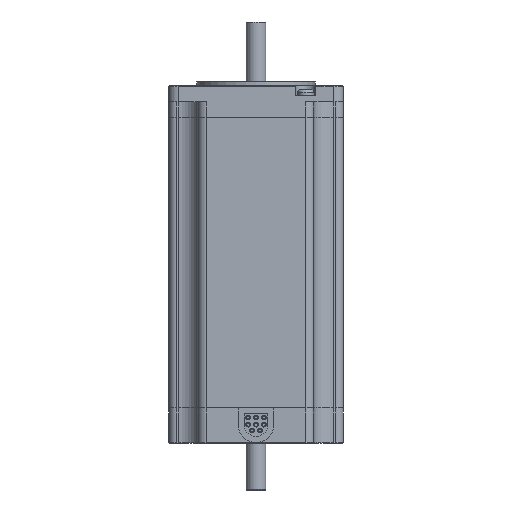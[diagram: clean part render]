
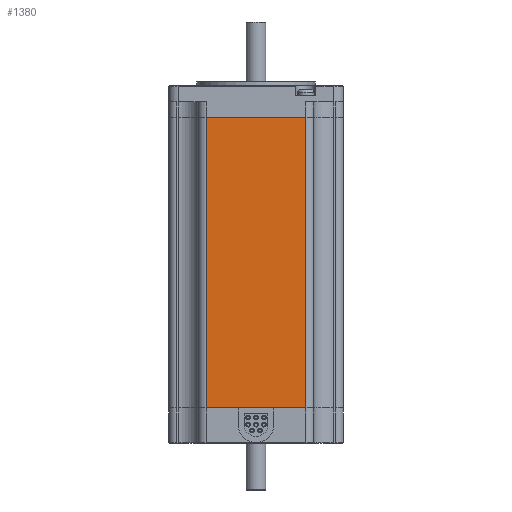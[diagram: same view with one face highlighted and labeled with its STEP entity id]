
A CAD part, front view. The second image highlights one B-rep face of the part: STEP entity #1380.
In plain terms, the highlighted planar face has unit normal (0, -1, 0).
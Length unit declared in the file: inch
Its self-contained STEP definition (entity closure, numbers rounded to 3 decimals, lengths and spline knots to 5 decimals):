
#1364 = EDGE_CURVE ( 'NONE', #1374, #1677, #12922, .T. ) ;
#1366 = ORIENTED_EDGE ( 'NONE', *, *, #1364, .T. ) ;
#1367 = ORIENTED_EDGE ( 'NONE', *, *, #1721, .T. ) ;
#1368 = ORIENTED_EDGE ( 'NONE', *, *, #1384, .F. ) ;
#1370 = ORIENTED_EDGE ( 'NONE', *, *, #1372, .F. ) ;
#1371 = VERTEX_POINT ( 'NONE', #12924 ) ;
#1372 = EDGE_CURVE ( 'NONE', #1374, #1371, #12896, .T. ) ;
#1374 = VERTEX_POINT ( 'NONE', #12955 ) ;
#1380 = ADVANCED_FACE ( 'NONE', ( #12957 ), #12947, .F. ) ;
#1382 = EDGE_LOOP ( 'NONE', ( #1367, #1368, #1370, #1366 ) ) ;
#1384 = EDGE_CURVE ( 'NONE', #1371, #1604, #13002, .T. ) ;
#1604 = VERTEX_POINT ( 'NONE', #13716 ) ;
#1677 = VERTEX_POINT ( 'NONE', #13872 ) ;
#1721 = EDGE_CURVE ( 'NONE', #1677, #1604, #13958, .T. ) ;
#12896 = LINE ( 'NONE', #12953, #12952 ) ;
#12919 = DIRECTION ( 'NONE',  ( 0., 0., 1. ) ) ;
#12920 = VECTOR ( 'NONE', #12919, 39.37008 ) ;
#12921 = CARTESIAN_POINT ( 'NONE',  ( 0.63, -1.104, -4.078 ) ) ;
#12922 = LINE ( 'NONE', #12921, #12920 ) ;
#12924 = CARTESIAN_POINT ( 'NONE',  ( -0.63, -1.104, -4.078 ) ) ;
#12947 = PLANE ( 'NONE',  #12958 ) ;
#12951 = DIRECTION ( 'NONE',  ( -1., 0., 0. ) ) ;
#12952 = VECTOR ( 'NONE', #12951, 39.37008 ) ;
#12953 = CARTESIAN_POINT ( 'NONE',  ( 0.63, -1.104, -4.078 ) ) ;
#12955 = CARTESIAN_POINT ( 'NONE',  ( 0.63, -1.104, -4.078 ) ) ;
#12957 = FACE_OUTER_BOUND ( 'NONE', #1382, .T. ) ;
#12958 = AXIS2_PLACEMENT_3D ( 'NONE', #12973, #12972, #12971 ) ;
#12971 = DIRECTION ( 'NONE',  ( -1., 0., 0. ) ) ;
#12972 = DIRECTION ( 'NONE',  ( 0., 1., 0. ) ) ;
#12973 = CARTESIAN_POINT ( 'NONE',  ( 0.63, -1.104, -4.078 ) ) ;
#12999 = DIRECTION ( 'NONE',  ( 0., 0., 1. ) ) ;
#13000 = VECTOR ( 'NONE', #12999, 39.37008 ) ;
#13001 = CARTESIAN_POINT ( 'NONE',  ( -0.63, -1.104, -4.078 ) ) ;
#13002 = LINE ( 'NONE', #13001, #13000 ) ;
#13716 = CARTESIAN_POINT ( 'NONE',  ( -0.63, -1.104, -0.4 ) ) ;
#13872 = CARTESIAN_POINT ( 'NONE',  ( 0.63, -1.104, -0.4 ) ) ;
#13952 = VECTOR ( 'NONE', #13960, 39.37008 ) ;
#13958 = LINE ( 'NONE', #13961, #13952 ) ;
#13960 = DIRECTION ( 'NONE',  ( -1., 0., 0. ) ) ;
#13961 = CARTESIAN_POINT ( 'NONE',  ( 0.63, -1.104, -0.4 ) ) ;
